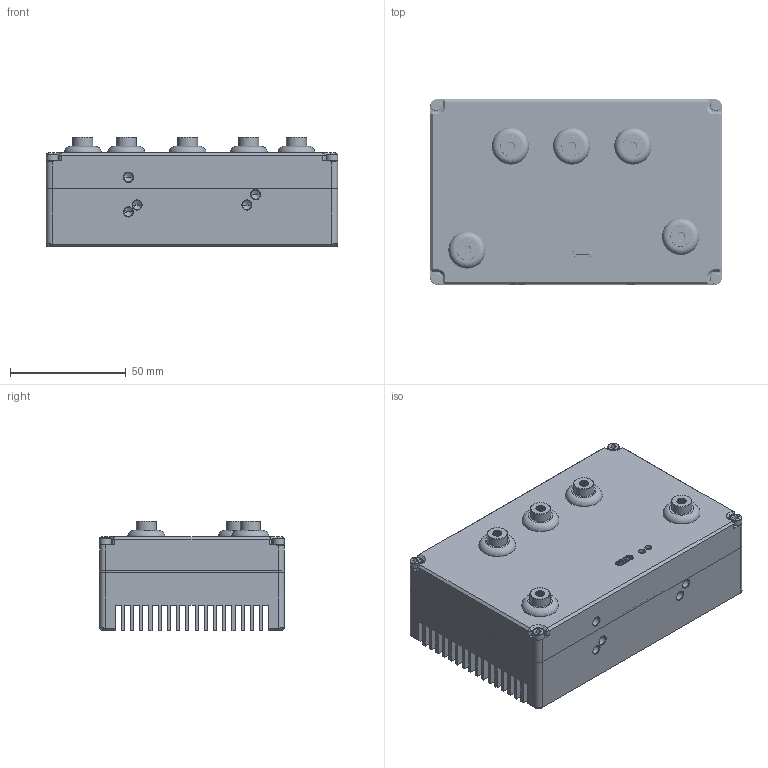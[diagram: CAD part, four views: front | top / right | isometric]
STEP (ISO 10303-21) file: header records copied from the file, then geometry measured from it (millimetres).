
FILE_DESCRIPTION(/* description */ (''),/* implementation_level */ '2;1');
FILE_NAME(/* name */ '装配2024.1.13-STP文件.stp',/* time_stamp */ '2025-03-06T12:07:44+08:00',/* author */ (''),/* organization */ (''),/* preprocessor_version */ 'ST-DEVELOPER v16.7',/* originating_system */ 'SIEMENS PLM Software NX 12.0',/* authorisation */ '');
FILE_SCHEMA (('AUTOMOTIVE_DESIGN { 1 0 10303 214 3 1 1 1 }'));
Products named in the file (1): Li Y1620E887okfm
Bounding box: 126 x 80 x 47.25 mm (x, y, z)
Volume: 148701.3 mm3; surface area: 129113.8 mm2
Topology: 21 solids, 21 shells, 3216 faces, 8507 edges, 5587 vertices
Faces by surface type: plane 2443, extrusion 332, cylinder 303, cone 72, bspline 56, torus 10
Full cylindrical faces by diameter (mm): 2.5 x8, 3 x6, 3.2 x4, 5 x9, 6.27 x5, 8.74 x5, 9 x5, 12 x5, 12.5 x5
Entity records: 147111 total; most frequent: CARTESIAN_POINT 62776, ORIENTED_EDGE 16736, DIRECTION 14201, EDGE_CURVE 8368, VECTOR 7183, LINE 6851, VERTEX_POINT 5556, EDGE_LOOP 3634
